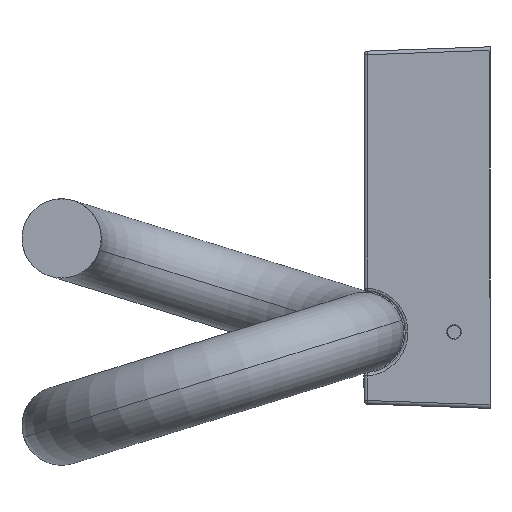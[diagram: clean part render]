
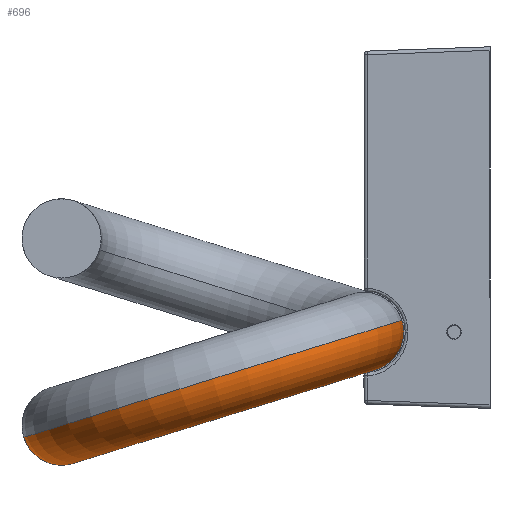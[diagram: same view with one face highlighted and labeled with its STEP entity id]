
A CAD part, front view. The second image highlights one B-rep face of the part: STEP entity #696.
In plain terms, the highlighted toroidal (fillet/blend) face has major radius 43.966 mm and minor radius 11 mm.
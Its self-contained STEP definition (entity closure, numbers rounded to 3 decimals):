
#24 = CARTESIAN_POINT ( 'NONE',  ( -73., -50., -26. ) ) ;
#25 = AXIS2_PLACEMENT_3D ( 'NONE', #121, #608, #1866 ) ;
#82 = CARTESIAN_POINT ( 'NONE',  ( -84., -50., -26. ) ) ;
#83 = AXIS2_PLACEMENT_3D ( 'NONE', #82, #1613, #199 ) ;
#88 = DIRECTION ( 'NONE',  ( -0.955, 0., -0.296 ) ) ;
#112 = FACE_OUTER_BOUND ( 'NONE', #750, .T. ) ;
#121 = CARTESIAN_POINT ( 'NONE',  ( 0., -50., 0. ) ) ;
#133 = ORIENTED_EDGE ( 'NONE', *, *, #1718, .F. ) ;
#199 = DIRECTION ( 'NONE',  ( 1., 0., 0. ) ) ;
#226 = EDGE_CURVE ( 'NONE', #1448, #1708, #1498, .T. ) ;
#239 = CARTESIAN_POINT ( 'NONE',  ( -94.508, -50., -29.253 ) ) ;
#306 = AXIS2_PLACEMENT_3D ( 'NONE', #1463, #1215, #1199 ) ;
#426 = CARTESIAN_POINT ( 'NONE',  ( -84., -50., -26. ) ) ;
#438 = ORIENTED_EDGE ( 'NONE', *, *, #877, .T. ) ;
#445 = CARTESIAN_POINT ( 'NONE',  ( -42., -50., -13. ) ) ;
#462 = CARTESIAN_POINT ( 'NONE',  ( 10.508, -50., 3.253 ) ) ;
#479 = VERTEX_POINT ( 'NONE', #1001 ) ;
#536 = VERTEX_POINT ( 'NONE', #1192 ) ;
#554 = CIRCLE ( 'NONE', #862, 54.966 ) ;
#607 = DIRECTION ( 'NONE',  ( 0., 1., 0. ) ) ;
#608 = DIRECTION ( 'NONE',  ( 0., -1., 0. ) ) ;
#612 = CARTESIAN_POINT ( 'NONE',  ( -42., -50., -13. ) ) ;
#696 = ADVANCED_FACE ( 'NONE', ( #112 ), #1656, .T. ) ;
#726 = AXIS2_PLACEMENT_3D ( 'NONE', #1641, #1832, #88 ) ;
#750 = EDGE_LOOP ( 'NONE', ( #438, #1687, #1869, #133, #808, #1513 ) ) ;
#787 = DIRECTION ( 'NONE',  ( 0.296, 0., -0.955 ) ) ;
#808 = ORIENTED_EDGE ( 'NONE', *, *, #1468, .F. ) ;
#862 = AXIS2_PLACEMENT_3D ( 'NONE', #612, #787, #1567 ) ;
#877 = EDGE_CURVE ( 'NONE', #536, #1833, #1658, .T. ) ;
#896 = CIRCLE ( 'NONE', #83, 11. ) ;
#953 = CARTESIAN_POINT ( 'NONE',  ( -73.492, -50., -22.747 ) ) ;
#1001 = CARTESIAN_POINT ( 'NONE',  ( -10.508, -50., -3.253 ) ) ;
#1131 = CIRCLE ( 'NONE', #726, 32.966 ) ;
#1192 = CARTESIAN_POINT ( 'NONE',  ( 11., -50., 0. ) ) ;
#1199 = DIRECTION ( 'NONE',  ( -0.825, 0., -0.565 ) ) ;
#1215 = DIRECTION ( 'NONE',  ( 0., -1., 0. ) ) ;
#1240 = DIRECTION ( 'NONE',  ( 0.296, 0., -0.955 ) ) ;
#1280 = AXIS2_PLACEMENT_3D ( 'NONE', #426, #607, #2006 ) ;
#1302 = AXIS2_PLACEMENT_3D ( 'NONE', #445, #1240, #1856 ) ;
#1366 = EDGE_CURVE ( 'NONE', #1833, #1708, #554, .T. ) ;
#1391 = VERTEX_POINT ( 'NONE', #953 ) ;
#1448 = VERTEX_POINT ( 'NONE', #24 ) ;
#1463 = CARTESIAN_POINT ( 'NONE',  ( 0., -50., 0. ) ) ;
#1468 = EDGE_CURVE ( 'NONE', #479, #1391, #1131, .T. ) ;
#1498 = CIRCLE ( 'NONE', #1280, 11. ) ;
#1513 = ORIENTED_EDGE ( 'NONE', *, *, #1551, .T. ) ;
#1551 = EDGE_CURVE ( 'NONE', #479, #536, #1580, .T. ) ;
#1567 = DIRECTION ( 'NONE',  ( -0.955, 0., -0.296 ) ) ;
#1580 = CIRCLE ( 'NONE', #25, 11. ) ;
#1613 = DIRECTION ( 'NONE',  ( 0., 1., 0. ) ) ;
#1641 = CARTESIAN_POINT ( 'NONE',  ( -42., -50., -13. ) ) ;
#1656 = TOROIDAL_SURFACE ( 'NONE', #1302, 43.966, 11. ) ;
#1658 = CIRCLE ( 'NONE', #306, 11. ) ;
#1687 = ORIENTED_EDGE ( 'NONE', *, *, #1366, .T. ) ;
#1708 = VERTEX_POINT ( 'NONE', #239 ) ;
#1718 = EDGE_CURVE ( 'NONE', #1391, #1448, #896, .T. ) ;
#1832 = DIRECTION ( 'NONE',  ( 0.296, 0., -0.955 ) ) ;
#1833 = VERTEX_POINT ( 'NONE', #462 ) ;
#1856 = DIRECTION ( 'NONE',  ( 0.955, 0., 0.296 ) ) ;
#1866 = DIRECTION ( 'NONE',  ( -0.825, 0., -0.565 ) ) ;
#1869 = ORIENTED_EDGE ( 'NONE', *, *, #226, .F. ) ;
#2006 = DIRECTION ( 'NONE',  ( 1., 0., 0. ) ) ;
